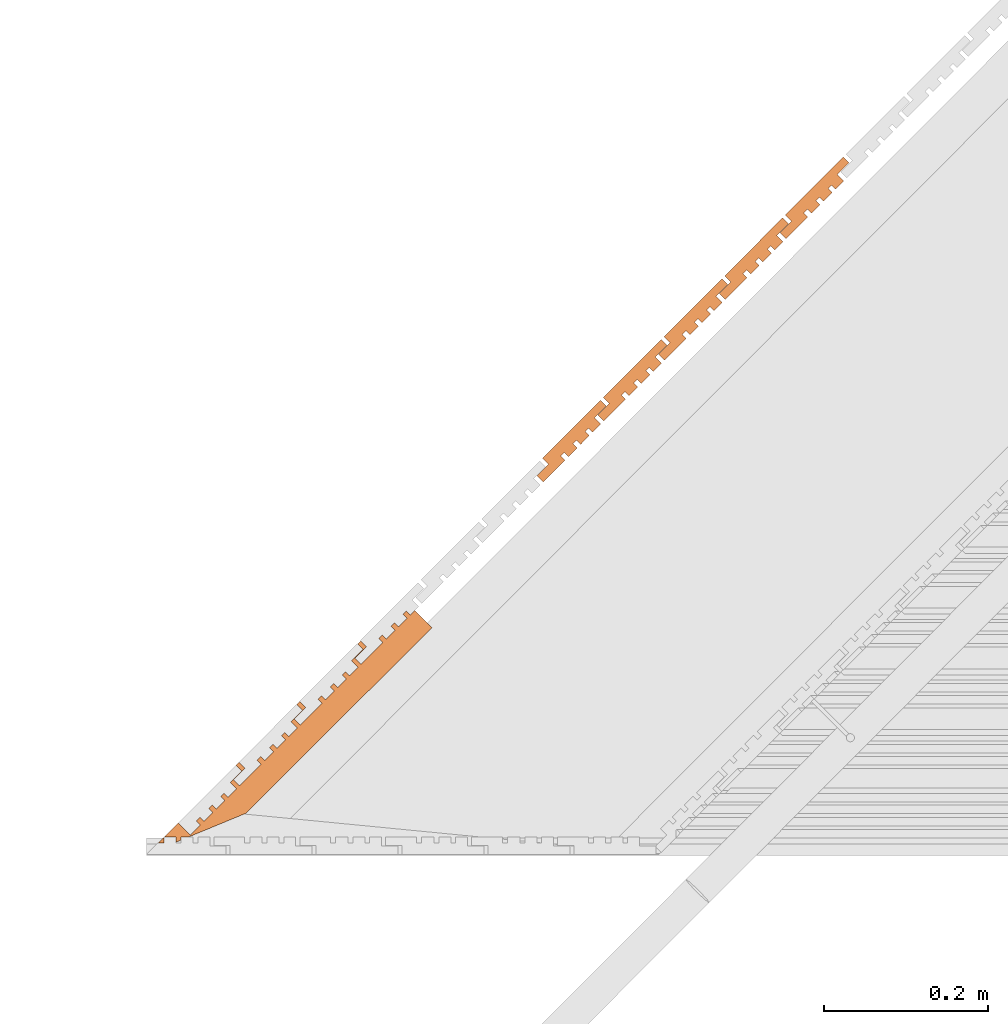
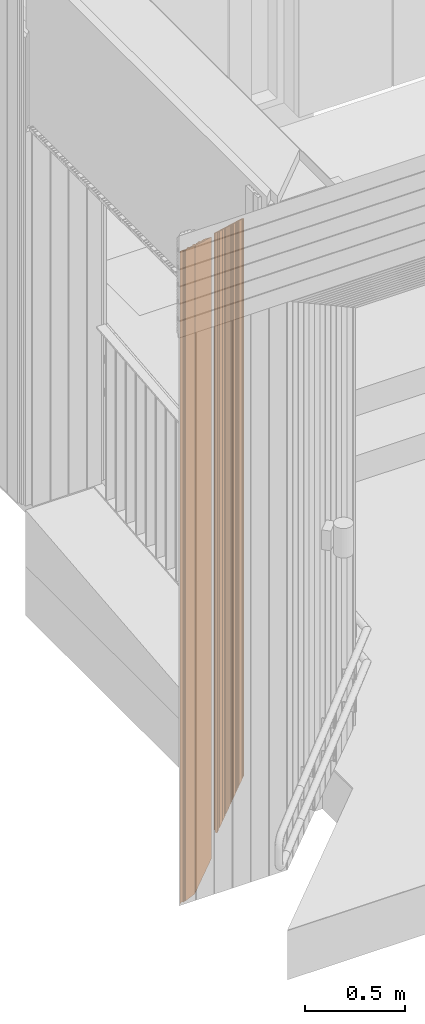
# One storey, part 381 of 418: 6 proxies.
"""IFC2X3 building model written with IfcOpenShell, lengths in millimetres."""

from ifc_helpers import new_model, entity, si_unit, converted_unit, derived_unit, money_unit, direction, frame, origin_with_axes, place, context, subcontext, project, spatial, polyline, outline, extrude, boolean, faceted_brep, material, type_object, element, save


model = new_model("IFC2X3")

# Units and contexts
model_context = context("Model", 3, precision=0.01, world=origin_with_axes(), true_north=direction((0.0, 1.0)))
body_context = subcontext(model_context, "Body", "Model", "MODEL_VIEW")
ifc_project = project(units=[si_unit("LENGTHUNIT", "METRE", prefix="MILLI"), si_unit("AREAUNIT", "SQUARE_METRE"), si_unit("VOLUMEUNIT", "CUBIC_METRE"), converted_unit("PLANEANGLEUNIT", "DEGREE", entity("IfcPlaneAngleMeasure", 0.0174532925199), si_unit("PLANEANGLEUNIT", "RADIAN"), dimensions=[0, 0, 0, 0, 0, 0, 0]), si_unit("SOLIDANGLEUNIT", "STERADIAN"), money_unit("EUR"), converted_unit("TIMEUNIT", "Year", entity("IfcTimeMeasure", 31556926.0), si_unit("TIMEUNIT", "SECOND"), dimensions=[0, 0, 1, 0, 0, 0, 0]), si_unit("MASSUNIT", "GRAM", prefix="KILO"), si_unit("THERMODYNAMICTEMPERATUREUNIT", "DEGREE_CELSIUS"), si_unit("LUMINOUSINTENSITYUNIT", "LUMEN"), si_unit("ENERGYUNIT", "JOULE", prefix="MEGA"), derived_unit("THERMALCONDUCTANCEUNIT", [(si_unit("POWERUNIT", "WATT"), 1), (si_unit("LENGTHUNIT", "METRE"), -1), (si_unit("THERMODYNAMICTEMPERATUREUNIT", "KELVIN"), -1)]), derived_unit("SPECIFICHEATCAPACITYUNIT", [(si_unit("ENERGYUNIT", "JOULE"), 1), (si_unit("MASSUNIT", "GRAM", prefix="KILO"), -1), (si_unit("THERMODYNAMICTEMPERATUREUNIT", "KELVIN"), -1)]), derived_unit("MASSDENSITYUNIT", [(si_unit("MASSUNIT", "GRAM", prefix="KILO"), 1), (si_unit("VOLUMEUNIT", "CUBIC_METRE"), -1)])], contexts=[model_context])

# Site, building, storey
site_placement = place(None, origin_with_axes())
site = spatial("IfcSite", under=ifc_project, at=site_placement, Name="Paldiski mnt 245/1, Tallinn, Harjumaa", CompositionType="COMPLEX")
building_placement = place(site_placement, origin_with_axes())
building = spatial("IfcBuilding", under=site, at=building_placement, Name="RKAS Hoone üldnimetus (kasutust iseloomustav) -> IFC Project Manager -> SOLIBRI", CompositionType="ELEMENT")
storey_placement = place(building_placement, origin_with_axes())
storey = spatial("IfcBuildingStorey", under=building, at=storey_placement, Name="Esimene korrus", CompositionType="ELEMENT", Elevation=0.0)

# Proxies
ifc_material_1 = material(Name="SKR-01_Õhkvahe - Raam")
building_element_proxy_type_1 = type_object("IfcBuildingElementProxyType", Name="Varikatuse_sein ots 50", PredefinedType="NOTDEFINED")
proxy_1_placement = place(storey_placement, frame((-45329.4358689, -18393.377474, 0.0), z_axis=(0.0, 0.0, 1.0), x_axis=(-0.708270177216, -0.705941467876, 0.0)))
element("IfcBuildingElementProxy", 1, at=proxy_1_placement, inside=storey, type_object=building_element_proxy_type_1, material=ifc_material_1, Name="Varikatus", context=body_context, shape_type="CSG", body=[
    boolean("DIFFERENCE", extrude(outline(polyline([(0.0, 0.0), (442.156585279, 0.0), (442.156585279, 50.0), (0.0, 50.0), (0.0, 0.0)])), origin_with_axes(), (0.0, 0.0, 1.0), 4023.60475805), faceted_brep([(401.877209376, 10.4972397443, 0.0), (412.40942803, -0.000350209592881, 0.0), (412.409080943, -4.26359392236e-06, 3974.61973515), (401.877209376, 10.4972397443, 3974.61973515), (442.156585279, 50.0, 0.0), (442.156585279, 0.0, 0.0), (422.325145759, -0.000233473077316, 0.0), (417.399730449, 4.90898764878, 0.0), (412.506535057, -0.000349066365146, 0.0), (406.217468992, 14.8518149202, 0.0), (400.090528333, 17.3837689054, 0.0), (397.537680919, 14.8225003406, 0.0), (391.339800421, 21.0000017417, 0.0), (321.164247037, 50.0, 0.0), (442.156585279, 0.0, 4023.60475805), (0.0, 0.0, 4023.60475805), (0.0, 0.0, 0.0), (72.8905255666, 0.0, 0.0), (72.8905255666, 0.0, 3802.34191411), (77.8905375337, 0.0, 3804.87901014), (77.8905375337, 0.0, 0.0), (177.890770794, 0.0, 0.0), (177.890770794, 0.0, 3855.62092758), (182.890782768, 0.0, 3858.15802361), (182.890782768, 0.0, 0.0), (282.891016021, 0.0, 0.0), (282.891016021, 0.0, 3908.89994104), (287.891028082, 0.0, 3911.43703712), (287.891028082, 0.0, 0.0), (387.891262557, -0.000638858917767, 0.0), (387.891261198, -9.75304814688e-06, 3962.17894952), (412.506878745, -4.24536850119e-06, 3974.66935952), (422.324914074, -2.55043985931e-06, 3979.65120814), (400.090528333, 17.3837689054, 3977.21901674), (406.217469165, 14.8518148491, 3979.03893963), (387.845875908, 20.9993134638, 3972.84650399), (370.319823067, 20.9614366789, 3963.93418671), (370.334950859, 13.9614516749, 3960.37822768), (363.97246884, 13.9477006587, 3957.14278931), (363.957339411, 20.9476843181, 3960.69874682), (349.018257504, 20.9153972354, 3953.1019508), (349.033386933, 13.9154135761, 3949.54599329), (342.906459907, 13.9021726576, 3946.43033945), (342.891331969, 20.9021561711, 3949.98629764), (328.062873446, 20.870108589, 3942.44575585), (328.078001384, 13.8701250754, 3938.88979765), (322.437345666, 13.8579347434, 3936.02142146), (322.422217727, 20.8579182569, 3939.57737966), (307.846063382, 20.8264153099, 3932.16513881), (307.869837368, 9.82644128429, 3926.57720531), (287.869883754, 9.78321566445, 3916.40686322), (282.86881478, 10.2724096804, 3914.11827552), (302.868768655, 10.3156339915, 3924.28861708), (302.84607537, 20.8156087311, 3929.6225534), (265.320068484, 20.7345071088, 3910.53989421), (265.335196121, 13.7345229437, 3906.98393553), (258.972713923, 13.7207718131, 3903.74849701), (258.957585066, 20.7207549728, 3907.30445456), (244.018502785, 20.6884679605, 3899.70765839), (244.033631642, 13.6884848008, 3896.15170084), (237.906705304, 13.6752434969, 3893.03604715), (237.891576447, 20.6752266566, 3896.5920047), (223.063118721, 20.6431797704, 3889.05146366), (223.078246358, 13.6431956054, 3885.49550499), (217.437591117, 13.6310054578, 3882.62712913), (217.422462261, 20.6309886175, 3886.18308668), (202.846309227, 20.5994857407, 3878.77084654), (202.870081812, 9.59951169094, 3873.18291231), (182.870128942, 9.55628615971, 3863.01257064), (177.869060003, 10.0454805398, 3860.72398315), (197.869013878, 10.0887048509, 3870.89432471), (197.846320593, 20.5886795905, 3876.22826103), (160.320313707, 20.5075779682, 3857.14560184), (160.335441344, 13.5075938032, 3853.58964316), (153.972959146, 13.4938426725, 3850.35420464), (153.957830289, 20.4938258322, 3853.91016219), (139.018748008, 20.4615388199, 3846.31336602), (139.033876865, 13.4615556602, 3842.75740847), (132.906950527, 13.4483143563, 3839.64175478), (132.89182167, 20.448297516, 3843.19771233), (118.063363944, 20.4162506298, 3835.65717129), (118.078491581, 13.4162664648, 3832.10121261), (112.437836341, 13.4040763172, 3829.23283676), (112.422707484, 20.404059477, 3832.78879431), (97.84655445, 20.3725566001, 3825.37655416), (97.8703270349, 9.37258255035, 3819.78861994), (77.8703741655, 9.32935701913, 3809.61827827), (72.8693052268, 9.81855139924, 3807.32969078), (92.8692591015, 9.8617757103, 3817.50003233), (92.8465658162, 20.3617504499, 3822.83396866), (55.3205589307, 20.2806488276, 3803.75130947), (55.3356865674, 13.2806646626, 3800.19535079), (48.9732043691, 13.2669135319, 3796.95991227), (48.9580755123, 20.2668966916, 3800.51586981), (34.0189932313, 20.2346096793, 3792.91907364), (34.0341220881, 13.2346265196, 3789.3631161), (27.9071957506, 13.2213852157, 3786.2474624), (27.8920668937, 20.2213683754, 3789.80341995), (13.0636091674, 20.1893214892, 3782.26287892), (13.0787368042, 13.1893373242, 3778.70692024), (7.43808156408, 13.1771471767, 3775.83854439), (7.42295270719, 20.1771303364, 3779.39450193), (0.0, 20.1610873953, 3775.61979486), (0.0, 50.0, 3790.81054133), (321.164247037, 50.0, 3953.77505828), (391.339800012, 21.0000013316, 3974.61973412), (397.537680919, 14.8225003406, 3974.61973515), (442.156585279, 50.0, 4023.60475805), (417.399730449, 4.90898764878, 3979.65120814), (0.0, 50.0, 4023.60475805), (0.0, 20.1610873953, 0.0), (92.8692591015, 9.8617757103, 0.0), (72.8693052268, 9.81855139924, 0.0), (7.42295270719, 20.1771303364, 0.0), (7.43808156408, 13.1771471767, 0.0), (13.0787368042, 13.1893373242, 0.0), (13.0636091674, 20.1893214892, 0.0), (27.8920668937, 20.2213683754, 0.0), (27.9071957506, 13.2213852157, 0.0), (34.0341220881, 13.2346265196, 0.0), (34.0189932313, 20.2346096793, 0.0), (48.9580755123, 20.2668966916, 0.0), (48.9732043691, 13.2669135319, 0.0), (55.3356865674, 13.2806646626, 0.0), (55.3205589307, 20.2806488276, 0.0), (92.8465658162, 20.3617504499, 0.0), (77.8703741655, 9.32935701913, 0.0), (197.846320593, 20.5886795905, 0.0), (197.869013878, 10.0887048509, 0.0), (177.869060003, 10.0454805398, 0.0), (97.8703270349, 9.37258255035, 0.0), (97.84655445, 20.3725566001, 0.0), (112.422707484, 20.404059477, 0.0), (112.437836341, 13.4040763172, 0.0), (118.078491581, 13.4162664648, 0.0), (118.063363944, 20.4162506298, 0.0), (132.89182167, 20.448297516, 0.0), (132.906950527, 13.4483143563, 0.0), (139.033876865, 13.4615556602, 0.0), (139.018748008, 20.4615388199, 0.0), (153.957830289, 20.4938258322, 0.0), (153.972959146, 13.4938426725, 0.0), (160.335441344, 13.5075938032, 0.0), (160.320313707, 20.5075779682, 0.0), (182.870128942, 9.55628615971, 0.0), (302.84607537, 20.8156087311, 0.0), (302.868768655, 10.3156339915, 0.0), (282.86881478, 10.2724096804, 0.0), (202.870081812, 9.59951169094, 0.0), (202.846309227, 20.5994857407, 0.0), (217.422462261, 20.6309886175, 0.0), (217.437591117, 13.6310054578, 0.0), (223.078246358, 13.6431956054, 0.0), (223.063118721, 20.6431797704, 0.0), (237.891576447, 20.6752266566, 0.0), (237.906705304, 13.6752434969, 0.0), (244.033631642, 13.6884848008, 0.0), (244.018502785, 20.6884679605, 0.0), (258.957585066, 20.7207549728, 0.0), (258.972713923, 13.7207718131, 0.0), (265.335196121, 13.7345229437, 0.0), (265.320068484, 20.7345071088, 0.0), (287.869883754, 9.78321566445, 0.0), (387.845875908, 20.9993134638, 0.0), (307.869837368, 9.82644128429, 0.0), (307.846063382, 20.8264153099, 0.0), (322.422217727, 20.8579182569, 0.0), (322.437345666, 13.8579347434, 0.0), (328.078001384, 13.8701250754, 0.0), (328.062873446, 20.870108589, 0.0), (342.891331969, 20.9021561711, 0.0), (342.906459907, 13.9021726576, 0.0), (349.033386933, 13.9154135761, 0.0), (349.018257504, 20.9153972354, 0.0), (363.957339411, 20.9476843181, 0.0), (363.97246884, 13.9477006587, 0.0), (370.334950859, 13.9614516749, 0.0), (370.319823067, 20.9614366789, 0.0)], [[[0, 1, 2, 3]], [[4, 5, 6, 7, 8, 1, 0, 9, 10, 11, 12, 13]], [[5, 14, 15, 16, 17, 18, 19, 20, 21, 22, 23, 24, 25, 26, 27, 28, 29, 30, 2, 1, 8, 31, 32, 6]], [[33, 34, 3, 2, 30, 35, 36, 37, 38, 39, 40, 41, 42, 43, 44, 45, 46, 47, 48, 49, 50, 27, 26, 51, 52, 53, 54, 55, 56, 57, 58, 59, 60, 61, 62, 63, 64, 65, 66, 67, 68, 23, 22, 69, 70, 71, 72, 73, 74, 75, 76, 77, 78, 79, 80, 81, 82, 83, 84, 85, 86, 19, 18, 87, 88, 89, 90, 91, 92, 93, 94, 95, 96, 97, 98, 99, 100, 101, 102, 103, 104, 105, 106]], [[34, 9, 0, 3]], [[5, 4, 107, 14]], [[7, 6, 32, 108]], [[7, 108, 31, 8]], [[9, 34, 33, 10]], [[10, 33, 106, 11]], [[12, 11, 106, 105]], [[12, 105, 104, 13]], [[107, 4, 13, 104, 103, 109]], [[14, 107, 109, 15]], [[109, 103, 102, 110, 16, 15]], [[111, 112, 17, 16, 110, 113, 114, 115, 116, 117, 118, 119, 120, 121, 122, 123, 124, 125]], [[112, 87, 18, 17]], [[86, 126, 20, 19]], [[127, 128, 129, 21, 20, 126, 130, 131, 132, 133, 134, 135, 136, 137, 138, 139, 140, 141, 142, 143]], [[21, 129, 69, 22]], [[144, 24, 23, 68]], [[145, 146, 147, 25, 24, 144, 148, 149, 150, 151, 152, 153, 154, 155, 156, 157, 158, 159, 160, 161]], [[25, 147, 51, 26]], [[162, 28, 27, 50]], [[163, 29, 28, 162, 164, 165, 166, 167, 168, 169, 170, 171, 172, 173, 174, 175, 176, 177]], [[29, 163, 35, 30]], [[32, 31, 108]], [[163, 177, 36, 35]], [[176, 37, 36, 177]], [[37, 176, 175, 38]], [[174, 39, 38, 175]], [[39, 174, 173, 40]], [[173, 172, 41, 40]], [[172, 171, 42, 41]], [[171, 170, 43, 42]], [[43, 170, 169, 44]], [[168, 45, 44, 169]], [[45, 168, 167, 46]], [[167, 166, 47, 46]], [[166, 165, 48, 47]], [[48, 165, 164, 49]], [[164, 162, 50, 49]], [[147, 146, 52, 51]], [[145, 53, 52, 146]], [[53, 145, 161, 54]], [[161, 160, 55, 54]], [[55, 160, 159, 56]], [[158, 57, 56, 159]], [[57, 158, 157, 58]], [[157, 156, 59, 58]], [[156, 155, 60, 59]], [[155, 154, 61, 60]], [[154, 153, 62, 61]], [[153, 152, 63, 62]], [[64, 63, 152, 151]], [[151, 150, 65, 64]], [[150, 149, 66, 65]], [[149, 148, 67, 66]], [[67, 148, 144, 68]], [[129, 128, 70, 69]], [[127, 71, 70, 128]], [[71, 127, 143, 72]], [[143, 142, 73, 72]], [[142, 141, 74, 73]], [[141, 140, 75, 74]], [[140, 139, 76, 75]], [[139, 138, 77, 76]], [[138, 137, 78, 77]], [[136, 79, 78, 137]], [[79, 136, 135, 80]], [[135, 134, 81, 80]], [[81, 134, 133, 82]], [[82, 133, 132, 83]], [[83, 132, 131, 84]], [[131, 130, 85, 84]], [[130, 126, 86, 85]], [[112, 111, 88, 87]], [[111, 125, 89, 88]], [[89, 125, 124, 90]], [[124, 123, 91, 90]], [[92, 91, 123, 122]], [[122, 121, 93, 92]], [[121, 120, 94, 93]], [[120, 119, 95, 94]], [[119, 118, 96, 95]], [[118, 117, 97, 96]], [[97, 117, 116, 98]], [[116, 115, 99, 98]], [[115, 114, 100, 99]], [[114, 113, 101, 100]], [[113, 110, 102, 101]]])),
])
ifc_material_2 = material(Name="ET-01_Puit - Konstruktsioon")
building_element_proxy_type_2 = type_object("IfcBuildingElementProxyType", Name="ET-01_Puit - Konstruktsioon 4084", PredefinedType="NOTDEFINED")
proxy_2_placement = place(storey_placement, frame((-44868.7945855, -17945.9316797, 4083.99999963), z_axis=(0.0, 0.0, 1.0), x_axis=(1.0, 0.0, 0.0)))
element("IfcBuildingElementProxy", 2, at=proxy_2_placement, inside=storey, type_object=building_element_proxy_type_2, material=ifc_material_2, Name="Varikatus", context=body_context, shape_type="CSG", body=[
    boolean("DIFFERENCE", extrude(outline(polyline([(0.0, 0.0), (7.42844055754, -7.42079883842), (33.9497391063, 19.1278074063), (28.9974455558, 24.0750082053), (33.4940944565, 28.5762877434), (38.4463881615, 23.6290885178), (49.0045018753, 34.1980741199), (44.0522081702, 39.1452733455), (48.3823797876, 43.4799031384), (53.3346734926, 38.5327039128), (63.8146046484, 49.0234249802), (58.8623110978, 53.9706257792), (62.8488134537, 57.9612321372), (67.8011071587, 53.0140329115), (78.1027224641, 63.3262563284), (70.3205472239, 71.1004278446), (84.455402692, 85.2498392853), (77.3806969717, 92.3172670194), (6.70641506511, 21.5702118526), (14.1348570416, 14.1494112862), (0.0, 0.0)])), frame((0.0, 0.0, -4083.99999963), z_axis=(0.0, 0.0, 1.0), x_axis=(1.0, 0.0, 0.0)), (0.0, 0.0, 1.0), 4083.99999963), faceted_brep([(70.3205472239, 71.1004278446, -691.36571868), (84.455402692, 85.2498392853, -701.536060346), (84.455402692, 85.2498392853, 0.0), (70.3205472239, 71.1004278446, 0.0), (77.3806969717, 92.3172670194, -706.615999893), (78.1027224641, 63.3262563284, -685.777784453), (67.8011071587, 53.0140329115, -678.36554431), (62.8488134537, 57.9612321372, -681.921501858), (58.8623110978, 53.9706257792, -679.053126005), (63.8146046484, 49.0234249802, -675.497167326), (53.3346734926, 38.5327039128, -667.956626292), (48.3823797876, 43.4799031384, -671.51258384), (44.0522081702, 39.1452733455, -668.396930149), (49.0045018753, 34.1980741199, -664.840972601), (38.4463881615, 23.6290885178, -657.244176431), (33.4940944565, 28.5762877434, -660.800133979), (28.9974455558, 24.0750082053, -657.564695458), (33.9497391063, 19.1278074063, -654.008736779), (7.42844055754, -7.42079883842, -634.92607759), (0.0, 0.0, -640.260013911), (14.1348570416, 14.1494112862, -650.430355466), (6.70641506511, 21.5702118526, -655.76429303), (77.3806969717, 92.3172670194, 0.0), (14.1348570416, 14.1494112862, 0.0), (0.0, 0.0, 0.0), (7.42844055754, -7.42079883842, 0.0), (33.9497391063, 19.1278074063, 0.0), (28.9974455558, 24.0750082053, 0.0), (33.4940944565, 28.5762877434, 0.0), (38.4463881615, 23.6290885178, 0.0), (49.0045018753, 34.1980741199, 0.0), (44.0522081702, 39.1452733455, 0.0), (48.3823797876, 43.4799031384, 0.0), (53.3346734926, 38.5327039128, 0.0), (63.8146046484, 49.0234249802, 0.0), (58.8623110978, 53.9706257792, 0.0), (62.8488134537, 57.9612321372, 0.0), (67.8011071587, 53.0140329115, 0.0), (78.1027224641, 63.3262563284, 0.0), (6.70641506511, 21.5702118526, 0.0)], [[[0, 1, 2, 3]], [[4, 1, 0, 5, 6, 7, 8, 9, 10, 11, 12, 13, 14, 15, 16, 17, 18, 19, 20, 21]], [[1, 4, 22, 2]], [[23, 24, 25, 26, 27, 28, 29, 30, 31, 32, 33, 34, 35, 36, 37, 38, 3, 2, 22, 39]], [[5, 0, 3, 38]], [[6, 5, 38, 37]], [[7, 6, 37, 36]], [[8, 7, 36, 35]], [[9, 8, 35, 34]], [[10, 9, 34, 33]], [[11, 10, 33, 32]], [[12, 11, 32, 31]], [[13, 12, 31, 30]], [[14, 13, 30, 29]], [[15, 14, 29, 28]], [[16, 15, 28, 27]], [[17, 16, 27, 26]], [[18, 17, 26, 25]], [[19, 18, 25, 24]], [[20, 19, 24, 23]], [[21, 20, 23, 39]], [[4, 21, 39, 22]]])),
])
proxy_3_placement = place(storey_placement, frame((-44943.0025817, -18020.2160878, 4083.99999963), z_axis=(0.0, 0.0, 1.0), x_axis=(1.0, 0.0, 0.0)))
element("IfcBuildingElementProxy", 3, at=proxy_3_placement, inside=storey, type_object=building_element_proxy_type_2, material=ifc_material_2, Name="Varikatus", context=body_context, shape_type="CSG", body=[
    boolean("DIFFERENCE", extrude(outline(polyline([(0.0, 0.0), (7.42844055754, -7.42079883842), (33.9497391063, 19.1278074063), (28.9974455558, 24.0750082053), (33.4940944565, 28.5762877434), (38.4463881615, 23.6290885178), (49.0045018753, 34.1980741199), (44.0522081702, 39.1452733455), (48.3823797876, 43.4799031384), (53.3346734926, 38.5327039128), (63.8146046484, 49.0234249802), (58.8623110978, 53.9706257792), (62.8488134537, 57.9612321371), (67.8011071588, 53.0140329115), (78.1027224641, 63.3262563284), (70.3205472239, 71.1004278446), (84.455402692, 85.2498392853), (77.3806969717, 92.3172670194), (6.7064150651, 21.5702118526), (14.1348570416, 14.1494112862), (0.0, 0.0)])), frame((0.0, 0.0, -4083.99999963), z_axis=(0.0, 0.0, 1.0), x_axis=(1.0, 0.0, 0.0)), (0.0, 0.0, 1.0), 4083.99999963), faceted_brep([(70.3205472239, 71.1004278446, -637.971426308), (84.455402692, 85.2498392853, -648.141767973), (84.455402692, 85.2498392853, 0.0), (70.3205472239, 71.1004278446, 0.0), (77.3806969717, 92.3172670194, -653.221707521), (78.1027224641, 63.3262563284, -632.38349208), (67.8011071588, 53.0140329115, -624.971251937), (62.8488134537, 57.9612321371, -628.527209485), (58.8623110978, 53.9706257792, -625.658833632), (63.8146046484, 49.0234249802, -622.102874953), (53.3346734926, 38.5327039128, -614.562333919), (48.3823797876, 43.4799031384, -618.118291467), (44.0522081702, 39.1452733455, -615.002637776), (49.0045018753, 34.1980741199, -611.446680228), (38.4463881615, 23.6290885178, -603.849884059), (33.4940944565, 28.5762877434, -607.405841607), (28.9974455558, 24.0750082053, -604.170403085), (33.9497391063, 19.1278074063, -600.614444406), (7.42844055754, -7.42079883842, -581.531785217), (0.0, 0.0, -586.865721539), (14.1348570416, 14.1494112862, -597.036063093), (6.7064150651, 21.5702118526, -602.370000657), (77.3806969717, 92.3172670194, 0.0), (14.1348570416, 14.1494112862, 0.0), (0.0, 0.0, 0.0), (7.42844055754, -7.42079883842, 0.0), (33.9497391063, 19.1278074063, 0.0), (28.9974455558, 24.0750082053, 0.0), (33.4940944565, 28.5762877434, 0.0), (38.4463881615, 23.6290885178, 0.0), (49.0045018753, 34.1980741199, 0.0), (44.0522081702, 39.1452733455, 0.0), (48.3823797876, 43.4799031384, 0.0), (53.3346734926, 38.5327039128, 0.0), (63.8146046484, 49.0234249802, 0.0), (58.8623110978, 53.9706257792, 0.0), (62.8488134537, 57.9612321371, 0.0), (67.8011071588, 53.0140329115, 0.0), (78.1027224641, 63.3262563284, 0.0), (6.7064150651, 21.5702118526, 0.0)], [[[0, 1, 2, 3]], [[4, 1, 0, 5, 6, 7, 8, 9, 10, 11, 12, 13, 14, 15, 16, 17, 18, 19, 20, 21]], [[1, 4, 22, 2]], [[23, 24, 25, 26, 27, 28, 29, 30, 31, 32, 33, 34, 35, 36, 37, 38, 3, 2, 22, 39]], [[5, 0, 3, 38]], [[6, 5, 38, 37]], [[7, 6, 37, 36]], [[8, 7, 36, 35]], [[9, 8, 35, 34]], [[10, 9, 34, 33]], [[11, 10, 33, 32]], [[12, 11, 32, 31]], [[13, 12, 31, 30]], [[14, 13, 30, 29]], [[15, 14, 29, 28]], [[16, 15, 28, 27]], [[17, 16, 27, 26]], [[18, 17, 26, 25]], [[19, 18, 25, 24]], [[20, 19, 24, 23]], [[21, 20, 23, 39]], [[4, 21, 39, 22]]])),
])
proxy_4_placement = place(storey_placement, frame((-45017.210578, -18094.500496, 4083.99999963), z_axis=(0.0, 0.0, 1.0), x_axis=(1.0, 0.0, 0.0)))
element("IfcBuildingElementProxy", 4, at=proxy_4_placement, inside=storey, type_object=building_element_proxy_type_2, material=ifc_material_2, Name="Varikatus", context=body_context, shape_type="CSG", body=[
    boolean("DIFFERENCE", extrude(outline(polyline([(0.0, 0.0), (7.42844055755, -7.42079883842), (33.9497391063, 19.1278074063), (28.9974455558, 24.0750082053), (33.4940944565, 28.5762877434), (38.4463881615, 23.6290885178), (49.0045018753, 34.1980741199), (44.0522081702, 39.1452733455), (48.3823797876, 43.4799031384), (53.3346734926, 38.5327039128), (63.8146046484, 49.0234249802), (58.8623110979, 53.9706257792), (62.8488134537, 57.9612321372), (67.8011071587, 53.0140329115), (78.1027224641, 63.3262563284), (70.3205472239, 71.1004278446), (84.455402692, 85.2498392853), (77.3806969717, 92.3172670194), (6.70641506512, 21.5702118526), (14.1348570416, 14.1494112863), (0.0, 0.0)])), frame((0.0, 0.0, -4083.99999963), z_axis=(0.0, 0.0, 1.0), x_axis=(1.0, 0.0, 0.0)), (0.0, 0.0, 1.0), 4083.99999963), faceted_brep([(70.3205472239, 71.1004278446, -584.577133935), (84.455402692, 85.2498392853, -594.7474756), (84.455402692, 85.2498392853, 0.0), (70.3205472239, 71.1004278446, 0.0), (77.3806969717, 92.3172670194, -599.827415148), (78.1027224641, 63.3262563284, -578.989199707), (67.8011071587, 53.0140329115, -571.576959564), (62.8488134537, 57.9612321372, -575.132917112), (58.8623110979, 53.9706257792, -572.264541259), (63.8146046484, 49.0234249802, -568.70858258), (53.3346734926, 38.5327039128, -561.168041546), (48.3823797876, 43.4799031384, -564.723999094), (44.0522081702, 39.1452733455, -561.608345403), (49.0045018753, 34.1980741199, -558.052387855), (38.4463881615, 23.6290885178, -550.455591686), (33.4940944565, 28.5762877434, -554.011549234), (28.9974455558, 24.0750082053, -550.776110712), (33.9497391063, 19.1278074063, -547.220152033), (7.42844055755, -7.42079883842, -528.137492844), (0.0, 0.0, -533.471429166), (14.1348570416, 14.1494112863, -543.64177072), (6.70641506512, 21.5702118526, -548.975708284), (77.3806969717, 92.3172670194, 0.0), (14.1348570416, 14.1494112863, 0.0), (0.0, 0.0, 0.0), (7.42844055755, -7.42079883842, 0.0), (33.9497391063, 19.1278074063, 0.0), (28.9974455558, 24.0750082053, 0.0), (33.4940944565, 28.5762877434, 0.0), (38.4463881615, 23.6290885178, 0.0), (49.0045018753, 34.1980741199, 0.0), (44.0522081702, 39.1452733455, 0.0), (48.3823797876, 43.4799031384, 0.0), (53.3346734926, 38.5327039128, 0.0), (63.8146046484, 49.0234249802, 0.0), (58.8623110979, 53.9706257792, 0.0), (62.8488134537, 57.9612321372, 0.0), (67.8011071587, 53.0140329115, 0.0), (78.1027224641, 63.3262563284, 0.0), (6.70641506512, 21.5702118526, 0.0)], [[[0, 1, 2, 3]], [[4, 1, 0, 5, 6, 7, 8, 9, 10, 11, 12, 13, 14, 15, 16, 17, 18, 19, 20, 21]], [[1, 4, 22, 2]], [[23, 24, 25, 26, 27, 28, 29, 30, 31, 32, 33, 34, 35, 36, 37, 38, 3, 2, 22, 39]], [[5, 0, 3, 38]], [[6, 5, 38, 37]], [[7, 6, 37, 36]], [[8, 7, 36, 35]], [[9, 8, 35, 34]], [[10, 9, 34, 33]], [[11, 10, 33, 32]], [[12, 11, 32, 31]], [[13, 12, 31, 30]], [[14, 13, 30, 29]], [[15, 14, 29, 28]], [[16, 15, 28, 27]], [[17, 16, 27, 26]], [[18, 17, 26, 25]], [[19, 18, 25, 24]], [[20, 19, 24, 23]], [[21, 20, 23, 39]], [[4, 21, 39, 22]]])),
])
proxy_5_placement = place(storey_placement, frame((-45091.4185742, -18168.7849041, 4083.99999963), z_axis=(0.0, 0.0, 1.0), x_axis=(1.0, 0.0, 0.0)))
element("IfcBuildingElementProxy", 5, at=proxy_5_placement, inside=storey, type_object=building_element_proxy_type_2, material=ifc_material_2, Name="Varikatus", context=body_context, shape_type="CSG", body=[
    boolean("DIFFERENCE", extrude(outline(polyline([(0.0, 0.0), (7.42844055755, -7.42079883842), (33.9497391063, 19.1278074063), (28.9974455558, 24.0750082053), (33.4940944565, 28.5762877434), (38.4463881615, 23.6290885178), (49.0045018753, 34.1980741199), (44.0522081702, 39.1452733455), (48.3823797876, 43.4799031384), (53.3346734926, 38.5327039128), (63.8146046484, 49.0234249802), (58.8623110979, 53.9706257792), (62.8488134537, 57.9612321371), (67.8011071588, 53.0140329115), (78.1027224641, 63.3262563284), (70.3205472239, 71.1004278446), (84.455402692, 85.2498392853), (77.3806969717, 92.3172670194), (6.70641506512, 21.5702118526), (14.1348570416, 14.1494112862), (0.0, 0.0)])), frame((0.0, 0.0, -4083.99999963), z_axis=(0.0, 0.0, 1.0), x_axis=(1.0, 0.0, 0.0)), (0.0, 0.0, 1.0), 4083.99999963), faceted_brep([(70.3205472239, 71.1004278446, -531.182841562), (84.455402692, 85.2498392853, -541.353183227), (84.455402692, 85.2498392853, 0.0), (70.3205472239, 71.1004278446, 0.0), (77.3806969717, 92.3172670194, -546.433122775), (78.1027224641, 63.3262563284, -525.594907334), (67.8011071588, 53.0140329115, -518.182667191), (62.8488134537, 57.9612321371, -521.738624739), (58.8623110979, 53.9706257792, -518.870248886), (63.8146046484, 49.0234249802, -515.314290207), (53.3346734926, 38.5327039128, -507.773749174), (48.3823797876, 43.4799031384, -511.329706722), (44.0522081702, 39.1452733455, -508.21405303), (49.0045018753, 34.1980741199, -504.658095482), (38.4463881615, 23.6290885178, -497.061299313), (33.4940944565, 28.5762877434, -500.617256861), (28.9974455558, 24.0750082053, -497.381818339), (33.9497391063, 19.1278074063, -493.82585966), (7.42844055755, -7.42079883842, -474.743200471), (0.0, 0.0, -480.077136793), (14.1348570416, 14.1494112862, -490.247478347), (6.70641506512, 21.5702118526, -495.581415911), (77.3806969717, 92.3172670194, 0.0), (14.1348570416, 14.1494112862, 0.0), (0.0, 0.0, 0.0), (7.42844055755, -7.42079883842, 0.0), (33.9497391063, 19.1278074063, 0.0), (28.9974455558, 24.0750082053, 0.0), (33.4940944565, 28.5762877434, 0.0), (38.4463881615, 23.6290885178, 0.0), (49.0045018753, 34.1980741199, 0.0), (44.0522081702, 39.1452733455, 0.0), (48.3823797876, 43.4799031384, 0.0), (53.3346734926, 38.5327039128, 0.0), (63.8146046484, 49.0234249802, 0.0), (58.8623110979, 53.9706257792, 0.0), (62.8488134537, 57.9612321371, 0.0), (67.8011071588, 53.0140329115, 0.0), (78.1027224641, 63.3262563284, 0.0), (6.70641506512, 21.5702118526, 0.0)], [[[0, 1, 2, 3]], [[4, 1, 0, 5, 6, 7, 8, 9, 10, 11, 12, 13, 14, 15, 16, 17, 18, 19, 20, 21]], [[1, 4, 22, 2]], [[23, 24, 25, 26, 27, 28, 29, 30, 31, 32, 33, 34, 35, 36, 37, 38, 3, 2, 22, 39]], [[5, 0, 3, 38]], [[6, 5, 38, 37]], [[7, 6, 37, 36]], [[8, 7, 36, 35]], [[9, 8, 35, 34]], [[10, 9, 34, 33]], [[11, 10, 33, 32]], [[12, 11, 32, 31]], [[13, 12, 31, 30]], [[14, 13, 30, 29]], [[15, 14, 29, 28]], [[16, 15, 28, 27]], [[17, 16, 27, 26]], [[18, 17, 26, 25]], [[19, 18, 25, 24]], [[20, 19, 24, 23]], [[21, 20, 23, 39]], [[4, 21, 39, 22]]])),
])
proxy_6_placement = place(storey_placement, frame((-45165.6265704, -18243.0693123, 4083.99999963), z_axis=(0.0, 0.0, 1.0), x_axis=(1.0, 0.0, 0.0)))
element("IfcBuildingElementProxy", 6, at=proxy_6_placement, inside=storey, type_object=building_element_proxy_type_2, material=ifc_material_2, Name="Varikatus", context=body_context, shape_type="CSG", body=[
    boolean("DIFFERENCE", extrude(outline(polyline([(0.0, 0.0), (7.42844055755, -7.42079883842), (33.9497391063, 19.1278074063), (28.9974455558, 24.0750082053), (33.4940944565, 28.5762877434), (38.4463881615, 23.6290885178), (49.0045018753, 34.1980741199), (44.0522081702, 39.1452733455), (48.3823797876, 43.4799031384), (53.3346734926, 38.5327039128), (63.8146046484, 49.0234249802), (58.8623110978, 53.9706257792), (62.8488134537, 57.9612321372), (67.8011071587, 53.0140329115), (78.1027224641, 63.3262563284), (70.3205472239, 71.1004278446), (84.455402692, 85.2498392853), (77.3806969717, 92.3172670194), (6.70641506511, 21.5702118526), (14.1348570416, 14.1494112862), (0.0, 0.0)])), frame((0.0, 0.0, -4083.99999963), z_axis=(0.0, 0.0, 1.0), x_axis=(1.0, 0.0, 0.0)), (0.0, 0.0, 1.0), 4083.99999963), faceted_brep([(70.3205472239, 71.1004278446, -477.788549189), (84.455402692, 85.2498392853, -487.958890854), (84.455402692, 85.2498392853, 0.0), (70.3205472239, 71.1004278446, 0.0), (77.3806969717, 92.3172670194, -493.038830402), (78.1027224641, 63.3262563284, -472.200614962), (67.8011071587, 53.0140329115, -464.788374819), (62.8488134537, 57.9612321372, -468.344332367), (58.8623110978, 53.9706257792, -465.475956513), (63.8146046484, 49.0234249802, -461.919997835), (53.3346734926, 38.5327039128, -454.379456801), (48.3823797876, 43.4799031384, -457.935414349), (44.0522081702, 39.1452733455, -454.819760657), (49.0045018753, 34.1980741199, -451.263803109), (38.4463881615, 23.6290885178, -443.66700694), (33.4940944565, 28.5762877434, -447.222964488), (28.9974455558, 24.0750082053, -443.987525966), (33.9497391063, 19.1278074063, -440.431567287), (7.42844055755, -7.42079883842, -421.348908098), (0.0, 0.0, -426.68284442), (14.1348570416, 14.1494112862, -436.853185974), (6.70641506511, 21.5702118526, -442.187123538), (77.3806969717, 92.3172670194, 0.0), (14.1348570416, 14.1494112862, 0.0), (0.0, 0.0, 0.0), (7.42844055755, -7.42079883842, 0.0), (33.9497391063, 19.1278074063, 0.0), (28.9974455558, 24.0750082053, 0.0), (33.4940944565, 28.5762877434, 0.0), (38.4463881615, 23.6290885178, 0.0), (49.0045018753, 34.1980741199, 0.0), (44.0522081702, 39.1452733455, 0.0), (48.3823797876, 43.4799031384, 0.0), (53.3346734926, 38.5327039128, 0.0), (63.8146046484, 49.0234249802, 0.0), (58.8623110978, 53.9706257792, 0.0), (62.8488134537, 57.9612321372, 0.0), (67.8011071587, 53.0140329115, 0.0), (78.1027224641, 63.3262563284, 0.0), (6.70641506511, 21.5702118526, 0.0)], [[[0, 1, 2, 3]], [[4, 1, 0, 5, 6, 7, 8, 9, 10, 11, 12, 13, 14, 15, 16, 17, 18, 19, 20, 21]], [[1, 4, 22, 2]], [[23, 24, 25, 26, 27, 28, 29, 30, 31, 32, 33, 34, 35, 36, 37, 38, 3, 2, 22, 39]], [[5, 0, 3, 38]], [[6, 5, 38, 37]], [[7, 6, 37, 36]], [[8, 7, 36, 35]], [[9, 8, 35, 34]], [[10, 9, 34, 33]], [[11, 10, 33, 32]], [[12, 11, 32, 31]], [[13, 12, 31, 30]], [[14, 13, 30, 29]], [[15, 14, 29, 28]], [[16, 15, 28, 27]], [[17, 16, 27, 26]], [[18, 17, 26, 25]], [[19, 18, 25, 24]], [[20, 19, 24, 23]], [[21, 20, 23, 39]], [[4, 21, 39, 22]]])),
])

save(model, "model.ifc")
